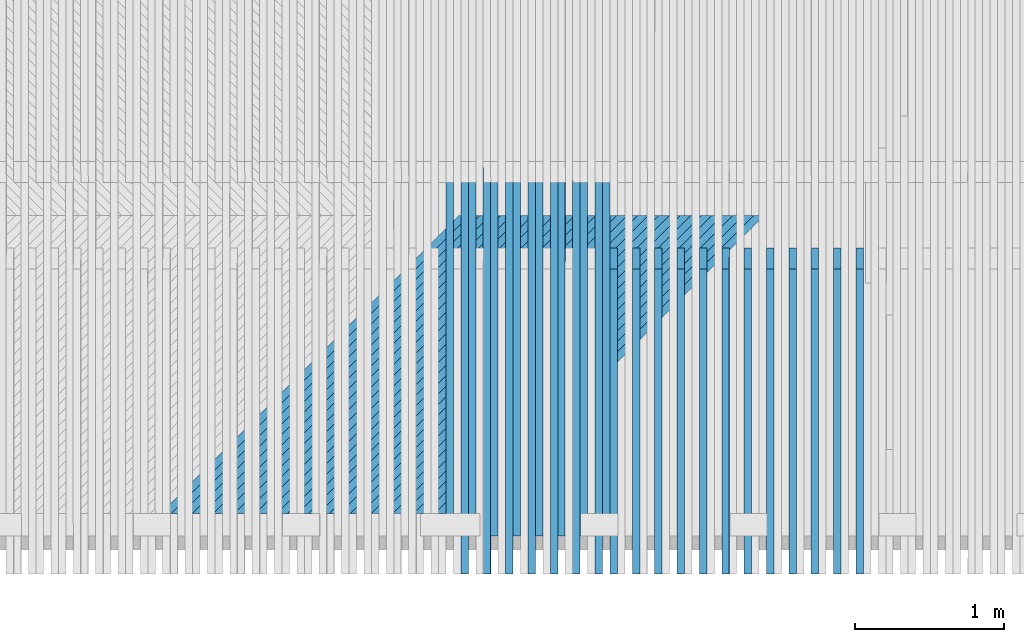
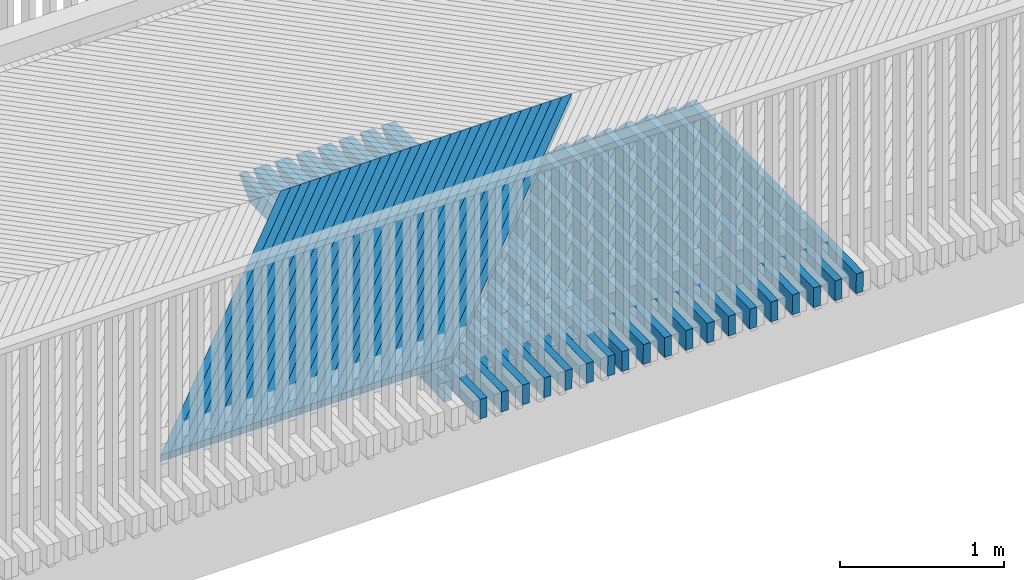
# One storey, part 21 of 47: 56 beams.
"""IFC2X3 building model written with IfcOpenShell, lengths in millimetres."""

from ifc_helpers import new_model, si_unit, frame, origin_with_axes, place, context, subcontext, project, spatial, faceted_brep, material, type_object, element, save


model = new_model("IFC2X3")

# Units and contexts
model_context = context("Model", 3, precision=1e-05, world=origin_with_axes())
body_context = subcontext(model_context, "Body", "Model", "MODEL_VIEW")
ifc_project = project(units=[si_unit("LENGTHUNIT", "METRE", prefix="MILLI"), si_unit("AREAUNIT", "SQUARE_METRE"), si_unit("VOLUMEUNIT", "CUBIC_METRE"), si_unit("MASSUNIT", "GRAM", prefix="KILO"), si_unit("TIMEUNIT", "SECOND"), si_unit("PLANEANGLEUNIT", "RADIAN"), si_unit("SOLIDANGLEUNIT", "STERADIAN"), si_unit("THERMODYNAMICTEMPERATUREUNIT", "DEGREE_CELSIUS"), si_unit("LUMINOUSINTENSITYUNIT", "LUMEN")], contexts=[model_context])

# Site, building, storey
site_placement = place(None, origin_with_axes())
site = spatial("IfcSite", under=ifc_project, at=site_placement, Name="Undefined", CompositionType="ELEMENT")
building_placement = place(site_placement, origin_with_axes())
building = spatial("IfcBuilding", under=site, at=building_placement, Name="Undefined", CompositionType="ELEMENT")
storey_placement = place(building_placement, origin_with_axes())
storey = spatial("IfcBuildingStorey", under=building, at=storey_placement, Name="Undefined", CompositionType="ELEMENT", Elevation=0.0)

# Beams
ifc_material = material(Name="TIMBER/Timber_Undefined")
beam_type_1 = type_object("IfcBeamType", Name="150*50", PredefinedType="NOTDEFINED")
beam_1_placement = place(storey_placement, frame((5099.43105651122, 59958.5561921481, 3081.00054883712), z_axis=(-0.00481490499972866, -0.0199960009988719, 0.99978846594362), x_axis=(-9.62979999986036e-05, 0.999800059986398, 0.019995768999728)))
element("IfcBeam", 1, at=beam_1_placement, inside=storey, type_object=beam_type_1, material=ifc_material, Name="BEAM", ObjectType="150*50", context=body_context, shape_type="Brep", body=[
    faceted_brep([(6.18456397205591e-09, -24.9999999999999, -75.0000000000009), (-6.1918399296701e-09, -24.9999999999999, 74.9999999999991), (-6.19911588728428e-09, 25.0, 75.0), (6.18456397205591e-09, 24.9999999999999, -75.0), (2633.00494983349, 25.0000000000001, -75.0000000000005), (2633.00495050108, -24.9999999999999, -75.0000000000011), (2768.59248707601, -25.0, 60.5875366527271), (2408.42499905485, -25.0, 74.9999999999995), (2408.42501428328, 25.0000000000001, 74.9999999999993), (2768.5924870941, 25.0, 60.5875375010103)], [[[0, 1, 2, 3]], [[0, 3, 4, 5]], [[1, 0, 5, 6, 7]], [[2, 1, 7, 8]], [[4, 3, 2, 8, 9]], [[5, 4, 9, 6]], [[8, 7, 6, 9]]]),
])
beam_2_placement = place(storey_placement, frame((4999.38737962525, 60216.5046076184, 3085.66919807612), z_axis=(-0.00498102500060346, -0.0199960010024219, 0.999787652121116), x_axis=(-9.96200000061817e-05, 0.999800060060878, 0.0199957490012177)))
element("IfcBeam", 2, at=beam_2_placement, inside=storey, type_object=beam_type_1, material=ifc_material, Name="BEAM", ObjectType="150*50", context=body_context, shape_type="Brep", body=[
    faceted_brep([(6.18456397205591e-09, -24.9999999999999, -75.0000000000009), (-6.1918399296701e-09, -24.9999999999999, 74.9999999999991), (-6.19911588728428e-09, 25.0, 75.0), (6.18456397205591e-09, 24.9999999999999, -75.0), (2375.00494220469, 24.9999999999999, -75.0000000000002), (2375.00494218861, -25.0, -75.0), (2510.59248711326, -25.0, 60.5875455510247), (2150.42518973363, -25.0, 75.0000000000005), (2150.42518840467, 25.0, 74.9999999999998), (2510.59248707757, 25.0, 60.5875454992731)], [[[0, 1, 2, 3]], [[0, 3, 4, 5]], [[1, 0, 5, 6, 7]], [[2, 1, 7, 8]], [[4, 3, 2, 8, 9]], [[5, 4, 9, 6]], [[8, 7, 6, 9]]]),
])
beam_3_placement = place(storey_placement, frame((5249.45816777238, 59958.5561921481, 3081.70477053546), z_axis=(-0.00456572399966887, -0.0199960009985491, 0.999789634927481), x_axis=(-9.1314999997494e-05, 0.999800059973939, 0.0199957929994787)))
element("IfcBeam", 3, at=beam_3_placement, inside=storey, type_object=beam_type_1, material=ifc_material, Name="BEAM", ObjectType="150*50", context=body_context, shape_type="Brep", body=[
    faceted_brep([(6.18456397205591e-09, -24.9999999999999, -75.0000000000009), (-6.1918399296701e-09, -24.9999999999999, 74.9999999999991), (-6.19911588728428e-09, 25.0, 75.0), (6.18456397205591e-09, 24.9999999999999, -75.0), (2633.00494983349, 25.0000000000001, -75.0000000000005), (2633.00495050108, -24.9999999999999, -75.0000000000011), (2768.59248707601, -25.0, 60.5875366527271), (2408.42499905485, -25.0, 74.9999999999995), (2408.42501428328, 25.0000000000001, 74.9999999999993), (2768.5924870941, 25.0, 60.5875375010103)], [[[0, 1, 2, 3]], [[0, 3, 4, 5]], [[1, 0, 5, 6, 7]], [[2, 1, 7, 8]], [[4, 3, 2, 8, 9]], [[5, 4, 9, 6]], [[8, 7, 6, 9]]]),
])
beam_4_placement = place(storey_placement, frame((5149.41565757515, 60216.5046076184, 3086.39835381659), z_axis=(-0.00473184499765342, -0.0199960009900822, 0.99978886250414), x_axis=(-9.46370000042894e-05, 0.999800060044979, 0.0199957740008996)))
element("IfcBeam", 4, at=beam_4_placement, inside=storey, type_object=beam_type_1, material=ifc_material, Name="BEAM", ObjectType="150*50", context=body_context, shape_type="Brep", body=[
    faceted_brep([(6.18456397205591e-09, -24.9999999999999, -75.0000000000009), (-6.1918399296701e-09, -24.9999999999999, 74.9999999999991), (-6.19911588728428e-09, 25.0, 75.0), (6.18456397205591e-09, 24.9999999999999, -75.0), (2375.00494220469, 24.9999999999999, -75.0000000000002), (2375.00494218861, -25.0, -75.0), (2510.59248711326, -25.0, 60.5875455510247), (2150.42518973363, -25.0, 75.0000000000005), (2150.42518840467, 25.0, 74.9999999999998), (2510.59248707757, 25.0, 60.5875454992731)], [[[0, 1, 2, 3]], [[0, 3, 4, 5]], [[1, 0, 5, 6, 7]], [[2, 1, 7, 8]], [[4, 3, 2, 8, 9]], [[5, 4, 9, 6]], [[8, 7, 6, 9]]]),
])
beam_5_placement = place(storey_placement, frame((5399.48544988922, 59958.5561921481, 3082.37160050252), z_axis=(-0.0043165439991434, -0.0199960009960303, 0.999790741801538), x_axis=(-8.63309999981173e-05, 0.999800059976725, 0.0199958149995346)))
element("IfcBeam", 5, at=beam_5_placement, inside=storey, type_object=beam_type_1, material=ifc_material, Name="BEAM", ObjectType="150*50", context=body_context, shape_type="Brep", body=[
    faceted_brep([(6.18456397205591e-09, -24.9999999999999, -75.0000000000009), (-6.1918399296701e-09, -24.9999999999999, 74.9999999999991), (-6.19911588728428e-09, 25.0, 75.0), (6.18456397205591e-09, 24.9999999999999, -75.0), (2633.00494983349, 25.0000000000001, -75.0000000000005), (2633.00495050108, -24.9999999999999, -75.0000000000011), (2768.59248707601, -25.0, 60.5875366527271), (2408.42499905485, -25.0, 74.9999999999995), (2408.42501428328, 25.0000000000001, 74.9999999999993), (2768.5924870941, 25.0, 60.5875375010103)], [[[0, 1, 2, 3]], [[0, 3, 4, 5]], [[1, 0, 5, 6, 7]], [[2, 1, 7, 8]], [[4, 3, 2, 8, 9]], [[5, 4, 9, 6]], [[8, 7, 6, 9]]]),
])
beam_6_placement = place(storey_placement, frame((5299.44411259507, 60216.5046076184, 3087.09011753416), z_axis=(-0.00448266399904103, -0.0199960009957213, 0.99979001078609), x_axis=(-8.96530000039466e-05, 0.999800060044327, 0.0199957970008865)))
element("IfcBeam", 6, at=beam_6_placement, inside=storey, type_object=beam_type_1, material=ifc_material, Name="BEAM", ObjectType="150*50", context=body_context, shape_type="Brep", body=[
    faceted_brep([(6.18456397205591e-09, -24.9999999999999, -75.0000000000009), (-6.1918399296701e-09, -24.9999999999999, 74.9999999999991), (-6.19911588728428e-09, 25.0, 75.0), (6.18456397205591e-09, 24.9999999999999, -75.0), (2375.00494220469, 24.9999999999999, -75.0000000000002), (2375.00494218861, -25.0, -75.0), (2510.59248711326, -25.0, 60.5875455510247), (2150.42518973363, -25.0, 75.0000000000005), (2150.42518840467, 25.0, 74.9999999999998), (2510.59248707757, 25.0, 60.5875454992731)], [[[0, 1, 2, 3]], [[0, 3, 4, 5]], [[1, 0, 5, 6, 7]], [[2, 1, 7, 8]], [[4, 3, 2, 8, 9]], [[5, 4, 9, 6]], [[8, 7, 6, 9]]]),
])
beam_7_placement = place(storey_placement, frame((5549.51289354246, 59958.5561921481, 3083.00103869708), z_axis=(-0.00406736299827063, -0.019996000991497, 0.999791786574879), x_axis=(-8.13469999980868e-05, 0.999800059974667, 0.0199958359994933)))
element("IfcBeam", 7, at=beam_7_placement, inside=storey, type_object=beam_type_1, material=ifc_material, Name="BEAM", ObjectType="150*50", context=body_context, shape_type="Brep", body=[
    faceted_brep([(6.18456397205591e-09, -24.9999999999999, -75.0000000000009), (-6.1918399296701e-09, -24.9999999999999, 74.9999999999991), (-6.19911588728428e-09, 25.0, 75.0), (6.18456397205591e-09, 24.9999999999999, -75.0), (2633.00494983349, 25.0000000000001, -75.0000000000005), (2633.00495050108, -24.9999999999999, -75.0000000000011), (2768.59248707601, -25.0, 60.5875366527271), (2408.42499905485, -25.0, 74.9999999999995), (2408.42501428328, 25.0000000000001, 74.9999999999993), (2768.5924870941, 25.0, 60.5875375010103)], [[[0, 1, 2, 3]], [[0, 3, 4, 5]], [[1, 0, 5, 6, 7]], [[2, 1, 7, 8]], [[4, 3, 2, 8, 9]], [[5, 4, 9, 6]], [[8, 7, 6, 9]]]),
])
beam_8_placement = place(storey_placement, frame((5449.47273536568, 60216.5046076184, 3087.74448918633), z_axis=(-0.00423348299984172, -0.019996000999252, 0.999791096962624), x_axis=(-8.46690000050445e-05, 0.999800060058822, 0.0199958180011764)))
element("IfcBeam", 8, at=beam_8_placement, inside=storey, type_object=beam_type_1, material=ifc_material, Name="BEAM", ObjectType="150*50", context=body_context, shape_type="Brep", body=[
    faceted_brep([(6.18456397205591e-09, -24.9999999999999, -75.0000000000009), (-6.1918399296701e-09, -24.9999999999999, 74.9999999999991), (-6.19911588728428e-09, 25.0, 75.0), (6.18456397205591e-09, 24.9999999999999, -75.0), (2375.00494220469, 24.9999999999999, -75.0000000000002), (2375.00494218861, -25.0, -75.0), (2510.59248711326, -25.0, 60.5875455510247), (2150.42518973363, -25.0, 75.0000000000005), (2150.42518840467, 25.0, 74.9999999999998), (2510.59248707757, 25.0, 60.5875454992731)], [[[0, 1, 2, 3]], [[0, 3, 4, 5]], [[1, 0, 5, 6, 7]], [[2, 1, 7, 8]], [[4, 3, 2, 8, 9]], [[5, 4, 9, 6]], [[8, 7, 6, 9]]]),
])
beam_9_placement = place(storey_placement, frame((5699.54048941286, 59958.5561921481, 3083.59308507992), z_axis=(-0.00381818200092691, -0.0199960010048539, 0.999792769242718), x_axis=(-7.63639999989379e-05, 0.99980005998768, 0.0199958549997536)))
element("IfcBeam", 9, at=beam_9_placement, inside=storey, type_object=beam_type_1, material=ifc_material, Name="BEAM", ObjectType="150*50", context=body_context, shape_type="Brep", body=[
    faceted_brep([(6.18456397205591e-09, -24.9999999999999, -75.0000000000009), (-6.1918399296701e-09, -24.9999999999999, 74.9999999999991), (-6.19911588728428e-09, 25.0, 75.0), (6.18456397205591e-09, 24.9999999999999, -75.0), (2633.00494983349, 25.0000000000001, -75.0000000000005), (2633.00495050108, -24.9999999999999, -75.0000000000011), (2768.59248707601, -25.0, 60.5875366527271), (2408.42499905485, -25.0, 74.9999999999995), (2408.42501428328, 25.0000000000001, 74.9999999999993), (2768.5924870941, 25.0, 60.5875375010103)], [[[0, 1, 2, 3]], [[0, 3, 4, 5]], [[1, 0, 5, 6, 7]], [[2, 1, 7, 8]], [[4, 3, 2, 8, 9]], [[5, 4, 9, 6]], [[8, 7, 6, 9]]]),
])
beam_10_placement = place(storey_placement, frame((5599.50151656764, 60216.5046076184, 3088.36146873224), z_axis=(-0.00398430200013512, -0.0199960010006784, 0.999792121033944), x_axis=(-7.96860000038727e-05, 0.999800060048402, 0.019995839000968)))
element("IfcBeam", 10, at=beam_10_placement, inside=storey, type_object=beam_type_1, material=ifc_material, Name="BEAM", ObjectType="150*50", context=body_context, shape_type="Brep", body=[
    faceted_brep([(6.18456397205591e-09, -24.9999999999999, -75.0000000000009), (-6.1918399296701e-09, -24.9999999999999, 74.9999999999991), (-6.19911588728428e-09, 25.0, 75.0), (6.18456397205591e-09, 24.9999999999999, -75.0), (2375.00494220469, 24.9999999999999, -75.0000000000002), (2375.00494218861, -25.0, -75.0), (2510.59248711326, -25.0, 60.5875455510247), (2150.42518973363, -25.0, 75.0000000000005), (2150.42518840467, 25.0, 74.9999999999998), (2510.59248707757, 25.0, 60.5875454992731)], [[[0, 1, 2, 3]], [[0, 3, 4, 5]], [[1, 0, 5, 6, 7]], [[2, 1, 7, 8]], [[4, 3, 2, 8, 9]], [[5, 4, 9, 6]], [[8, 7, 6, 9]]]),
])
beam_11_placement = place(storey_placement, frame((5849.56822818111, 59958.5561921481, 3084.14773961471), z_axis=(-0.00356899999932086, -0.0199960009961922, 0.999793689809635), x_axis=(-7.13799999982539e-05, 0.999800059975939, 0.0199958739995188)))
element("IfcBeam", 11, at=beam_11_placement, inside=storey, type_object=beam_type_1, material=ifc_material, Name="BEAM", ObjectType="150*50", context=body_context, shape_type="Brep", body=[
    faceted_brep([(6.18456397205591e-09, -24.9999999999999, -75.0000000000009), (-6.1918399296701e-09, -24.9999999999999, 74.9999999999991), (-6.19911588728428e-09, 25.0, 75.0), (6.18456397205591e-09, 24.9999999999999, -75.0), (2633.00494983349, 25.0000000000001, -75.0000000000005), (2633.00495050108, -24.9999999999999, -75.0000000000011), (2768.59248707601, -25.0, 60.5875366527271), (2408.42499905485, -25.0, 74.9999999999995), (2408.42501428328, 25.0000000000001, 74.9999999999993), (2768.5924870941, 25.0, 60.5875375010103)], [[[0, 1, 2, 3]], [[0, 3, 4, 5]], [[1, 0, 5, 6, 7]], [[2, 1, 7, 8]], [[4, 3, 2, 8, 9]], [[5, 4, 9, 6]], [[8, 7, 6, 9]]]),
])
beam_12_placement = place(storey_placement, frame((5749.5304468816, 60216.5046076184, 3088.9410561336), z_axis=(-0.0037351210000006, -0.0199960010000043, 0.999793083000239), x_axis=(-7.47020000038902e-05, 0.999800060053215, 0.0199958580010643)))
element("IfcBeam", 12, at=beam_12_placement, inside=storey, type_object=beam_type_1, material=ifc_material, Name="BEAM", ObjectType="150*50", context=body_context, shape_type="Brep", body=[
    faceted_brep([(6.18456397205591e-09, -24.9999999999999, -75.0000000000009), (-6.1918399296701e-09, -24.9999999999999, 74.9999999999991), (-6.19911588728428e-09, 25.0, 75.0), (6.18456397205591e-09, 24.9999999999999, -75.0), (2375.00494220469, 24.9999999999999, -75.0000000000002), (2375.00494218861, -25.0, -75.0), (2510.59248711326, -25.0, 60.5875455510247), (2150.42518973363, -25.0, 75.0000000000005), (2150.42518840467, 25.0, 74.9999999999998), (2510.59248707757, 25.0, 60.5875454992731)], [[[0, 1, 2, 3]], [[0, 3, 4, 5]], [[1, 0, 5, 6, 7]], [[2, 1, 7, 8]], [[4, 3, 2, 8, 9]], [[5, 4, 9, 6]], [[8, 7, 6, 9]]]),
])
beam_13_placement = place(storey_placement, frame((5999.59610052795, 59958.5561921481, 3084.66500226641), z_axis=(-0.0033198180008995, -0.0199960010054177, 0.99979454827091), x_axis=(-6.63969999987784e-05, 0.99980005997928, 0.0199958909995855)))
element("IfcBeam", 13, at=beam_13_placement, inside=storey, type_object=beam_type_1, material=ifc_material, Name="BEAM", ObjectType="150*50", context=body_context, shape_type="Brep", body=[
    faceted_brep([(6.18456397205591e-09, -24.9999999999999, -75.0000000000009), (-6.1918399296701e-09, -24.9999999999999, 74.9999999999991), (-6.19911588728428e-09, 25.0, 75.0), (6.18456397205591e-09, 24.9999999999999, -75.0), (2633.00494983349, 25.0000000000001, -75.0000000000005), (2633.00495050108, -24.9999999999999, -75.0000000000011), (2768.59248707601, -25.0, 60.5875366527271), (2408.42499905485, -25.0, 74.9999999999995), (2408.42501428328, 25.0000000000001, 74.9999999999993), (2768.5924870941, 25.0, 60.5875375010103)], [[[0, 1, 2, 3]], [[0, 3, 4, 5]], [[1, 0, 5, 6, 7]], [[2, 1, 7, 8]], [[4, 3, 2, 8, 9]], [[5, 4, 9, 6]], [[8, 7, 6, 9]]]),
])
for number, where, z_axis, x_axis, name in (
    (14, (5899.55951698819, 60216.5046076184, 3089.48325135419), (-0.00348593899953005, -0.019996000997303, 0.999793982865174), (-6.97180000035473e-05, 0.999800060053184, 0.0199958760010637), "BEAM"),
    (15, (6049.58871756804, 60216.5046076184, 3089.98805436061), (-0.00323675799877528, -0.0199960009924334, 0.999794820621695), (-6.47350000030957e-05, 0.999800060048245, 0.019995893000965), "BEAM"),
):
    element("IfcBeam", number, at=place(storey_placement, frame(where, z_axis=z_axis, x_axis=x_axis)), inside=storey, type_object=beam_type_1, material=ifc_material, Name=name, ObjectType="150*50", context=body_context, shape_type="Brep", body=[
        faceted_brep([(6.18456397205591e-09, -24.9999999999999, -75.0000000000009), (-6.1918399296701e-09, -24.9999999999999, 74.9999999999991), (-6.19911588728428e-09, 25.0, 75.0), (6.18456397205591e-09, 24.9999999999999, -75.0), (2375.00494220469, 24.9999999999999, -75.0000000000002), (2375.00494218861, -25.0, -75.0), (2510.59248711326, -25.0, 60.5875455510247), (2150.42518973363, -25.0, 75.0000000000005), (2150.42518840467, 25.0, 74.9999999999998), (2510.59248707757, 25.0, 60.5875454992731)], [[[0, 1, 2, 3]], [[0, 3, 4, 5]], [[1, 0, 5, 6, 7]], [[2, 1, 7, 8]], [[4, 3, 2, 8, 9]], [[5, 4, 9, 6]], [[8, 7, 6, 9]]]),
    ])
for number, where, z_axis, x_axis, name in (
    (16, (6099.58576685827, 59958.5561921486, 3084.9903089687), (-0.00323675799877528, -0.0199960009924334, 0.999794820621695), (-6.47350000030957e-05, 0.999800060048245, 0.019995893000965), "BEAM"),
    (17, (6249.61384143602, 59958.5561921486, 3085.44525896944), (-0.002987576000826, -0.019996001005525, 0.999795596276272), (-5.97510000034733e-05, 0.999800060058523, 0.0199959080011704), "BEAM"),
    (18, (6399.64202474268, 59958.5561921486, 3085.86281700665), (-0.0027383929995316, -0.0199960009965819, 0.99979630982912), (-5.47680000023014e-05, 0.999800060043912, 0.0199959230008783), "BEAM"),
    (19, (6549.67030745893, 59958.5561921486, 3086.2429830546), (-0.00248921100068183, -0.0199960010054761, 0.999796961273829), (-4.97840000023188e-05, 0.999800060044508, 0.0199959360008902), "BEAM"),
    (20, (6699.69868026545, 59958.5561921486, 3086.58575708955), (-0.00224002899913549, -0.019996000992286, 0.999797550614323), (-4.48000000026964e-05, 0.999800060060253, 0.0199959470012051), "BEAM"),
    (21, (6849.72713384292, 59958.5561921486, 3086.89113909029), (-0.00199084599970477, -0.0199960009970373, 0.999798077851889), (-3.98170000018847e-05, 0.999800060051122, 0.0199959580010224), "BEAM"),
    (22, (6999.75565887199, 59958.5561921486, 3087.15912903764), (-0.00174166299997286, -0.0199960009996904, 0.999798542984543), (-3.48330000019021e-05, 0.999800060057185, 0.0199959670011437), "BEAM"),
    (23, (7149.78424603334, 59958.5561921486, 3087.38972691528), (-0.00149248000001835, -0.0199960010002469, 0.999798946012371), (-2.98490000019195e-05, 0.999800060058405, 0.019995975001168), "BEAM"),
    (24, (7299.81288600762, 59958.5561921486, 3087.58293270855), (-0.00124329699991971, -0.0199960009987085, 0.999799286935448), (-2.48660000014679e-05, 0.999800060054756, 0.019995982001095), "BEAM"),
    (25, (7449.84156947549, 59958.5561921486, 3087.7387464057), (-0.000994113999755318, -0.0199960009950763, 0.999799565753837), (-1.9882000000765e-05, 0.999800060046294, 0.0199959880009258), "BEAM"),
    (26, (7599.87028711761, 59958.5561921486, 3087.85716799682), (-0.000744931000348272, -0.0199960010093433, 0.999799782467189), (-1.48980000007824e-05, 0.99980006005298, 0.0199959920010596), "BEAM"),
    (27, (7749.89902961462, 59958.5561921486, 3087.93819747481), (-0.000495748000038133, -0.0199960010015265, 0.999799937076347), (-9.91500000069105e-06, 0.999800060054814, 0.0199959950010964), "BEAM"),
):
    element("IfcBeam", number, at=place(storey_placement, frame(where, z_axis=z_axis, x_axis=x_axis)), inside=storey, type_object=beam_type_1, material=ifc_material, Name=name, ObjectType="150*50", context=body_context, shape_type="Brep", body=[
        faceted_brep([(6.18456397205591e-09, -24.9999999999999, -75.0000000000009), (-6.1918399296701e-09, -24.9999999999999, 74.9999999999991), (-6.19911588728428e-09, 25.0, 75.0), (6.18456397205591e-09, 24.9999999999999, -75.0), (2186.42645915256, -25.0000000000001, -75.0), (2047.96936034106, -25.0000000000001, 75.0), (2047.96935975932, 25.0, 75.0), (2186.42645864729, 25.0, -75.0)], [[[0, 1, 2, 3]], [[1, 0, 4, 5]], [[2, 1, 5, 6]], [[3, 2, 6, 7]], [[0, 3, 7, 4]], [[5, 4, 7, 6]]]),
    ])
beam_type_2 = type_object("IfcBeamType", Name="50*50", PredefinedType="NOTDEFINED")
for number, where, z_axis, x_axis, name in (
    (28, (7074.94341888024, 62364.5001003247, 3235.4114504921), (0.707133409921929, -0.706981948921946, -0.0117840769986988), (-0.707072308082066, -0.706948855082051, -0.0164944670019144), "BEAM"),
    (29, (7004.2192754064, 62364.5001003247, 3235.29863908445), (0.707134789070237, -0.706981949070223, -0.0117010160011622), (-0.707070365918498, -0.706948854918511, -0.0165775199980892), "BEAM"),
    (30, (6933.49514567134, 62364.5001003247, 3235.17752037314), (0.707136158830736, -0.706981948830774, -0.0116179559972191), (-0.707068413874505, -0.706948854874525, -0.016660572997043), "BEAM"),
    (31, (6862.77103065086, 62364.5001003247, 3235.04809435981), (0.707137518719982, -0.706981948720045, -0.0115348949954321), (-0.707066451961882, -0.706948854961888, -0.0167436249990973), "BEAM"),
    (32, (6792.04693132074, 62364.5001003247, 3234.91036104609), (0.707138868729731, -0.706981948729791, -0.0114518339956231), (-0.70706448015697, -0.706948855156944, -0.0168266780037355), "BEAM"),
    (33, (6721.32284865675, 62364.5001003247, 3234.76432043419), (0.707140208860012, -0.706981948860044, -0.0113687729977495), (-0.707062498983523, -0.706948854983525, -0.016909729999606), "BEAM"),
    (34, (6650.59878363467, 62364.5001003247, 3234.60997252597), (0.707141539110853, -0.706981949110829, -0.011285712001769), (-0.707060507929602, -0.706948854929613, -0.0169927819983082), "BEAM"),
    (35, (6579.8747372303, 62364.5001003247, 3234.44731732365), (0.707142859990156, -0.706981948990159, -0.0112026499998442), (-0.707058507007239, -0.706948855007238, -0.0170758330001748), "BEAM"),
    (36, (6509.1507104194, 62364.5001003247, 3234.27635482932), (0.707144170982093, -0.706981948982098, -0.0111195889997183), (-0.707056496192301, -0.706948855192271, -0.0171588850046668), "BEAM"),
    (37, (6438.42670417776, 62364.5001003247, 3234.09708504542), (0.707145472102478, -0.706981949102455, -0.0110365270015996), (-0.707054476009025, -0.706948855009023, -0.0172419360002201), "BEAM"),
    (38, (6367.70271948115, 62364.5001003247, 3233.9095079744), (0.707146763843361, -0.706981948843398, -0.0109534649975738), (-0.707052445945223, -0.706948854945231, -0.0173249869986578), "BEAM"),
    (39, (6296.97875730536, 62364.5001003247, 3233.71362361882), (0.707148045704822, -0.706981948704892, -0.0108704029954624), (-0.707050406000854, -0.706948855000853, -0.0174080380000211), "BEAM"),
    (40, (6226.25481862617, 62364.5001003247, 3233.5094319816), (0.70714931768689, -0.706981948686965, -0.0107873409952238), (-0.707048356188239, -0.706948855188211, -0.0174910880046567), "BEAM"),
    (41, (6155.53090441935, 62364.5001003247, 3233.29693306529), (0.707150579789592, -0.706981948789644, -0.0107042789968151), (-0.707046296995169, -0.706948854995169, -0.01757413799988), "BEAM"),
    (42, (6084.80701566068, 62364.5001003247, 3233.07612687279), (0.707151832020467, -0.706981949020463, -0.0106212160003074), (-0.70704422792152, -0.706948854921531, -0.0176571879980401), "BEAM"),
    (43, (6014.08315332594, 62364.5001003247, 3232.84701340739), (0.707153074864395, -0.706981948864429, -0.010538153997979), (-0.707042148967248, -0.706948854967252, -0.0177402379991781), "BEAM"),
    (44, (5943.35931839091, 62364.5001003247, 3232.6095926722), (0.707154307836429, -0.70698194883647, -0.0104550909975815), (-0.707040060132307, -0.706948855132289, -0.0178232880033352), "BEAM"),
    (45, (5872.63551183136, 62364.5001003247, 3232.36386467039), (0.707155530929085, -0.706981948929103, -0.0103720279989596), (-0.707037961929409, -0.706948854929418, -0.0179063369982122), "BEAM"),
    (46, (5801.91173462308, 62364.5001003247, 3232.10982940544), (0.707156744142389, -0.706981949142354, -0.0102889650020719), (-0.707035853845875, -0.706948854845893, -0.0179893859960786), "BEAM"),
    (47, (5731.18798774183, 62364.5001003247, 3231.84748688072), (0.707157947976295, -0.706981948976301, -0.010205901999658), (-0.707033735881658, -0.706948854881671, -0.0180724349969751), "BEAM"),
    (48, (5660.46427216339, 62364.5001003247, 3231.57683709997), (0.707159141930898, -0.706981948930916, -0.0101228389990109), (-0.707031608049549, -0.706948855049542, -0.0181554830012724), "BEAM"),
    (49, (5589.74058886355, 62364.5001003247, 3231.29788006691), (0.707160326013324, -0.706981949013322, -0.0100397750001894), (-0.707029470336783, -0.706948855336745, -0.0182385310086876), "BEAM"),
    (50, (5519.01693881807, 62364.5001003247, 3231.01061578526), (0.707161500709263, -0.706981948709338, -0.00995671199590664), (-0.707027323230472, -0.706948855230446, -0.0183215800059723), "BEAM"),
    (51, (5448.29332300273, 62364.5001003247, 3230.71504425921), (0.707162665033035, -0.706981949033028, -0.00987364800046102), (-0.707025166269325, -0.706948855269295, -0.0184046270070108), "BEAM"),
    (52, (5377.5697423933, 62364.5001003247, 3230.41116549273), (0.707163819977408, -0.706981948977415, -0.00979058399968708), (-0.707022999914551, -0.706948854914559, -0.0184876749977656), "BEAM"),
    (53, (5306.84619796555, 62364.5001003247, 3230.09897948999), (0.707164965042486, -0.706981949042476, -0.00970752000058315), (-0.707020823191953, -0.706948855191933, -0.0185707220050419), "BEAM"),
    (54, (5236.12269069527, 62364.5001003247, 3229.77848625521), (0.707166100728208, -0.70698194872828, -0.00962445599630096), (-0.707018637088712, -0.706948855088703, -0.0186537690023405), "BEAM"),
    (55, (5165.39922155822, 62364.5001003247, 3229.44968579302), (0.707167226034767, -0.706981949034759, -0.00954139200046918), (-0.707016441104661, -0.706948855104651, -0.0187368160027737), "BEAM"),
    (56, (5094.67579153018, 62364.5001003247, 3229.11257810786), (0.707168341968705, -0.706981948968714, -0.00945832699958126), (-0.707014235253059, -0.706948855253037, -0.0188198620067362), "BEAM"),
):
    element("IfcBeam", number, at=place(storey_placement, frame(where, z_axis=z_axis, x_axis=x_axis)), inside=storey, type_object=beam_type_2, material=ifc_material, Name=name, ObjectType="50*50", context=body_context, shape_type="Brep", body=[
        faceted_brep([(24.8942457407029, 24.9999999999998, -24.9999999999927), (-25.0086637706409, 24.9999999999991, 25.0), (2804.3406783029, 24.9999999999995, 25.0000000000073), (2854.34301907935, 24.9999999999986, -24.9999999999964), (-26.4222658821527, -25.0000000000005, 25.0000000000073), (2802.92643296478, -25.0000000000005, 25.0000000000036), (23.4806436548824, -25.0000000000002, -25.0), (2852.92877373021, -25.0000000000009, -24.9999999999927)], [[[0, 1, 2, 3]], [[1, 4, 5, 2]], [[4, 6, 7, 5]], [[6, 0, 3, 7]], [[5, 7, 3, 2]], [[6, 4, 1, 0]]]),
    ])

save(model, "model.ifc")
